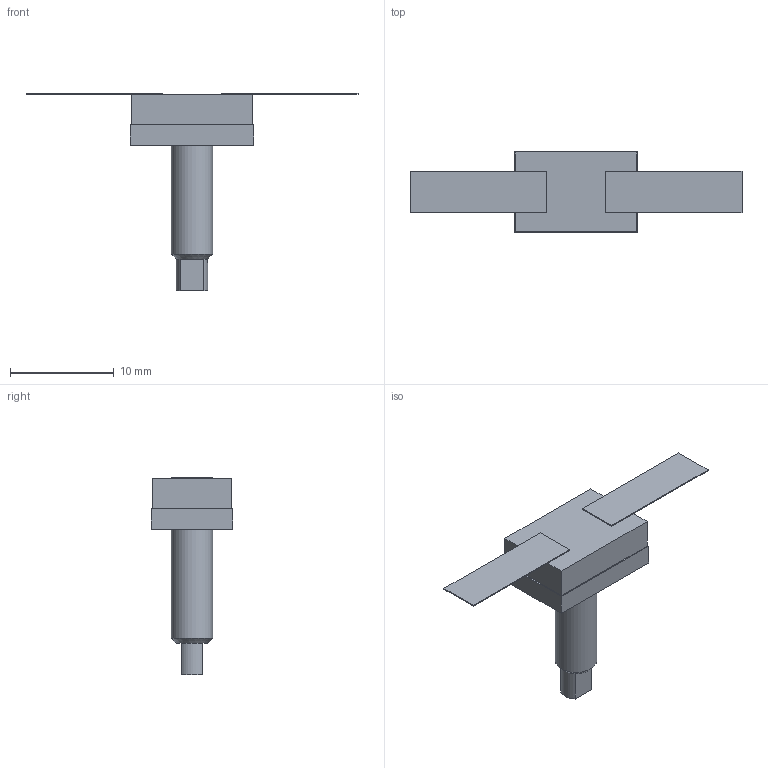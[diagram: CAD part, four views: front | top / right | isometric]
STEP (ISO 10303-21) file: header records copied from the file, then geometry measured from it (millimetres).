
FILE_DESCRIPTION(('STEP AP203'), '1');
FILE_NAME('Ð1-3-25', '', ('UNSPECIFIED'), ('UNSPECIFIED'), 'ASCON STEP Converter 1.6', 'ASCON Math Kernel', '');
FILE_SCHEMA(('CONFIG_CONTROL_DESIGN'));
Length unit declared in the file: millimetre
Bounding box: 32 x 7.9 x 19 mm (x, y, z)
Volume: 612.8 mm3; surface area: 726.1 mm2
Topology: 1 solids, 2 shells, 51 faces, 126 edges, 81 vertices
Faces by surface type: plane 43, cylinder 7, cone 1
Full cylindrical faces by diameter (mm): 4 x1
Entity records: 1929 total; most frequent: CARTESIAN_POINT 257, ORIENTED_EDGE 248, DIRECTION 245, EDGE_CURVE 124, LINE 107, VECTOR 107, VERTEX_POINT 81, AXIS2_PLACEMENT_3D 69
